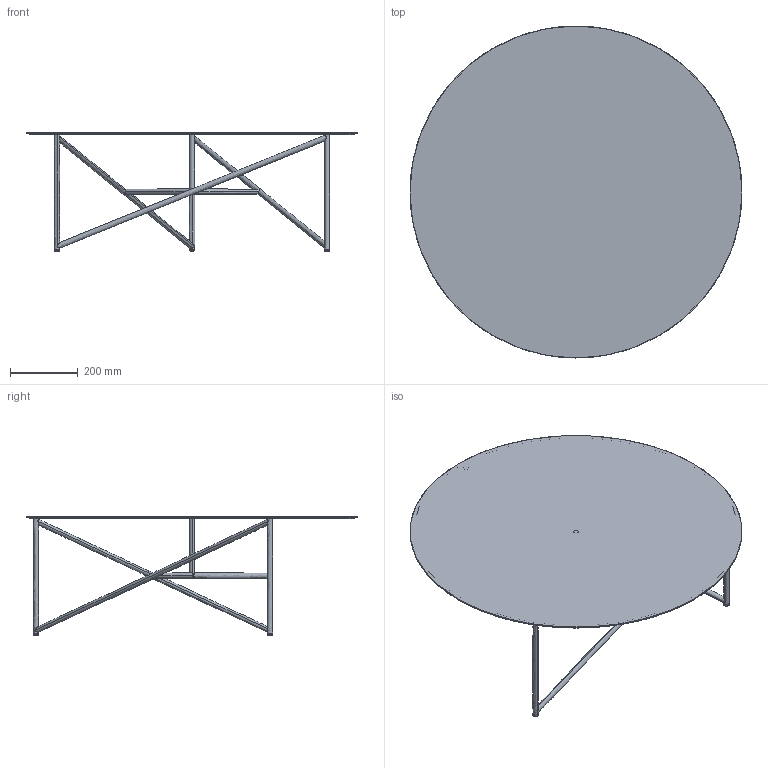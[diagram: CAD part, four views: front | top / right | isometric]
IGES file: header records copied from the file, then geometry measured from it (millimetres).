
Start section: SolidWorks IGES file using analytic representation for surfaces
Global section: file name: \\utenti\Dati Utenti\Tecnico\DC\2D - 3D per sito\3D\DeCastelli-3D-Parsec 98.igs; native system: SolidWorks 2022; preprocessor: SolidWorks 2022; author: Simonep; date: 240729.120546; units: millimetre
Bounding box: 980 x 980 x 350.04 mm (x, y, z)
Surface area: 2486513 mm2 (no closed solid volume)
Topology: 0 solids, 0 shells, 78 faces, 1695 edges, 1689 vertices
Faces by surface type: bspline 41, revolution 37
